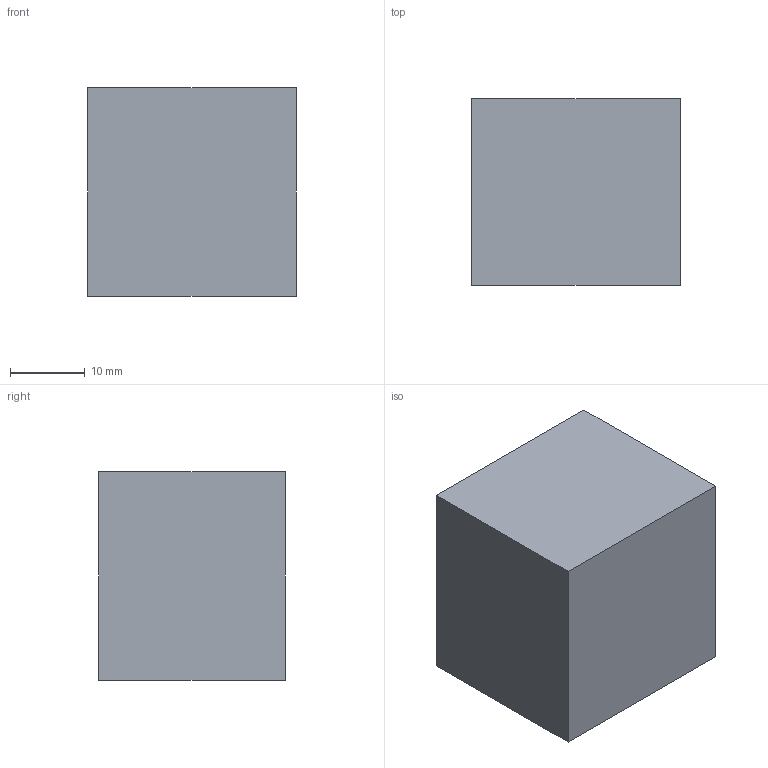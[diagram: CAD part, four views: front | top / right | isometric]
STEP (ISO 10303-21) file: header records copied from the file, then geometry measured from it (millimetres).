
FILE_DESCRIPTION(('Open CASCADE Model'),'2;1');
FILE_NAME('Open CASCADE Shape Model','2026-10-04T01:02:31',('Author'),( 'Open CASCADE'),'Open CASCADE STEP processor 8.0','Open CASCADE 8.0' ,'Unknown');
FILE_SCHEMA(('AUTOMOTIVE_DESIGN { 1 0 10303 214 1 1 1 1 }'));
Length unit declared in the file: millimetre
Products named in the file (1): Open CASCADE STEP translator 8.0 271
Bounding box: 28 x 25 x 28 mm (x, y, z)
Volume: 19600 mm3; surface area: 4368 mm2
Topology: 1 solids, 1 shells, 6 faces, 12 edges, 8 vertices
Faces by surface type: plane 6
Entity records: 322 total; most frequent: CARTESIAN_POINT 51, DIRECTION 50, LINE 36, VECTOR 36, ORIENTED_EDGE 24, PCURVE 24, DEFINITIONAL_REPRESENTATION 24, EDGE_CURVE 12
